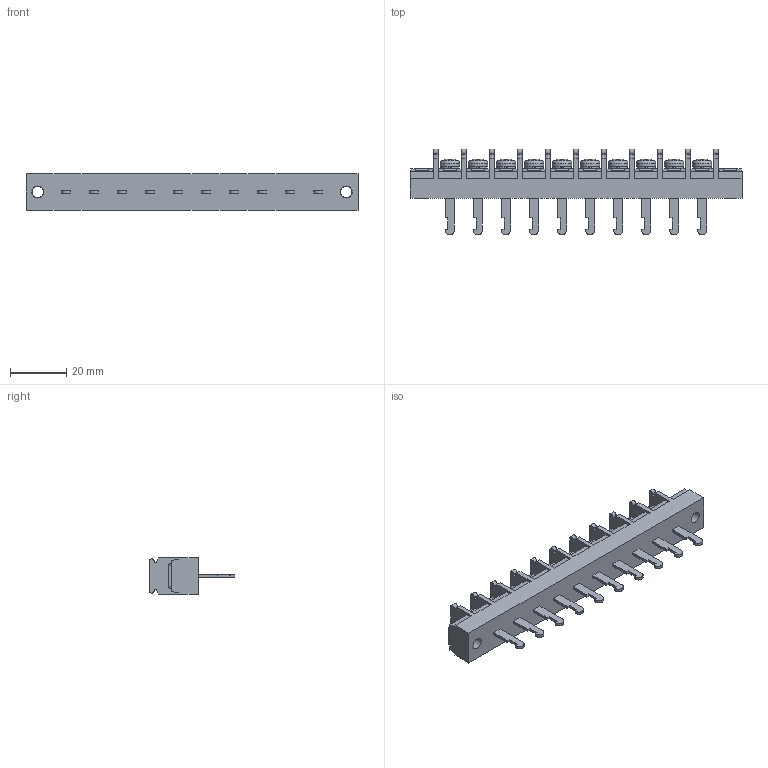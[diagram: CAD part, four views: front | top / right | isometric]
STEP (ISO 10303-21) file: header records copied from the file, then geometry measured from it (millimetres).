
FILE_DESCRIPTION(/* description */ ('Alibre Inc.'),/* implementation_level */ '2;1');
FILE_NAME(/* name */ 'export0',/* time_stamp */ '2015-10-17T19:18:11+09:00',/* author */ (''),/* organization */ (''),/* preprocessor_version */ 'ST-DEVELOPER v14',/* originating_system */ 'Alibre',/* authorisation */ '');
FILE_SCHEMA (('CONFIG_CONTROL_DESIGN'));
Length unit declared in the file: centimetre
Products named in the file (1): ID_1
Bounding box: 118.4 x 30.5 x 13 mm (x, y, z)
Volume: 17811.1 mm3; surface area: 10894.4 mm2
Topology: 1 solids, 17 shells, 1110 faces, 3038 edges, 2016 vertices
Faces by surface type: plane 846, bspline 104, cylinder 90, cone 40, torus 20, sphere 10
Full cylindrical faces by diameter (mm): 4 x12, 4.2 x2, 6.5 x10, 7 x10
Entity records: 33843 total; most frequent: CARTESIAN_POINT 7293, ORIENTED_EDGE 5924, DIRECTION 4292, EDGE_CURVE 2962, VECTOR 2194, LINE 2194, VERTEX_POINT 1984, AXIS2_PLACEMENT_3D 1467
